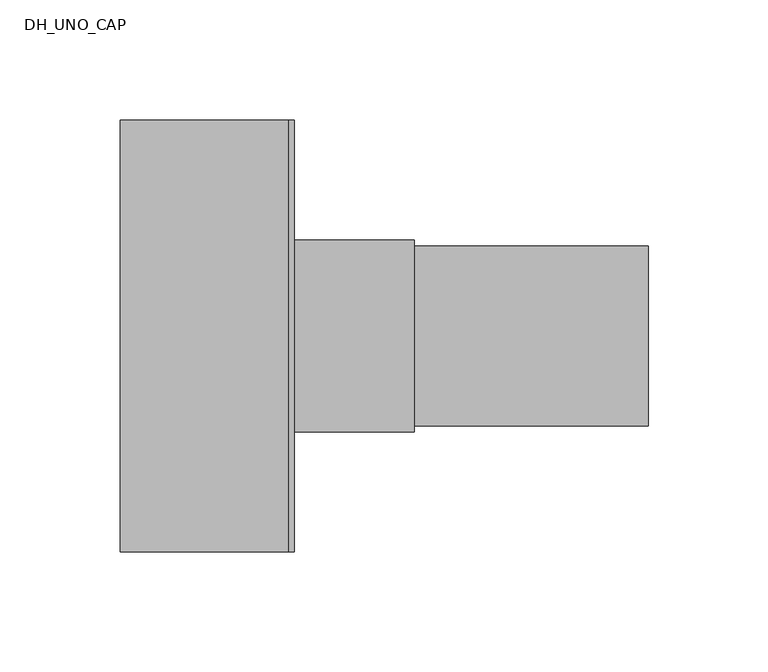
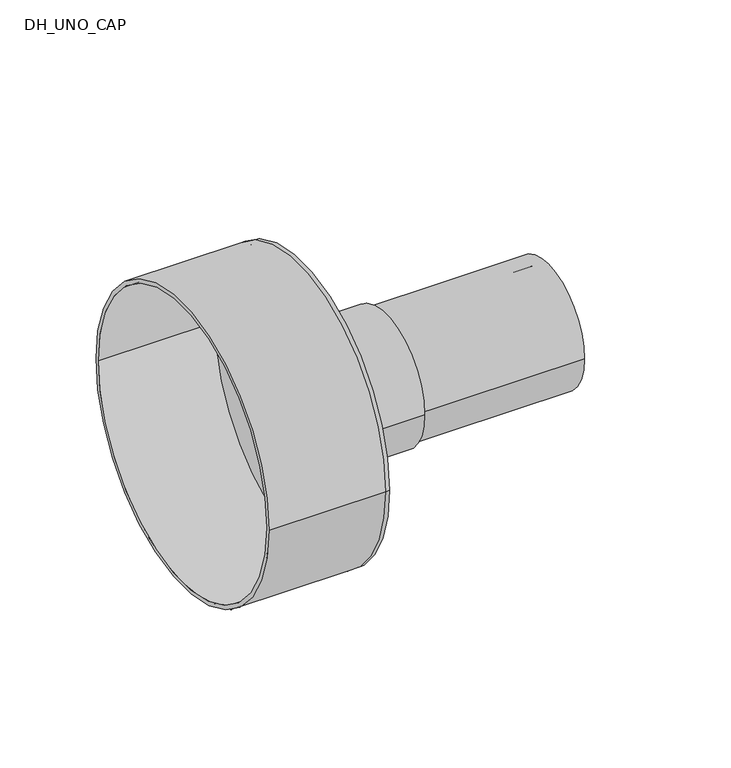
"""IFC4 building model written with IfcOpenShell, lengths in millimetres: pipe fitting geometry, DH_UNO_CAP : RAUVIPEX UNO 11 Heating - Rubber Cap."""

from ifc_helpers import new_model, si_unit, point, frame, origin, origin_2d, place, context, project, spatial, polyline, circle_curve, trimmed, segment, composite_curve, outline, extrude, source, transform, mapped, element, save
from ifc_brep_helpers import plane_surface, cylinder_surface, revolved_surface, advanced_brep


def dh_uno_cap_b64fe8c9(model_context):
    return source(origin(), model_context, "Body", "SolidModel", [
        extrude(outline(composite_curve([segment(trimmed(circle_curve(origin_2d(), 37.5), [point((-37.5, 0.0))], [point((37.5, 0.0))], False, "CARTESIAN"), True, "CONTINUOUS"), segment(trimmed(circle_curve(origin_2d(), 37.5), [point((37.5, 0.0))], [point((-37.5, 0.0))], False, "CARTESIAN"), True, "CONTINUOUS")], self_intersect=False), holes=[composite_curve([segment(trimmed(circle_curve(origin_2d(), 30.7), [point((-30.7, 0.0))], [point((30.7, 0.0))], True, "CARTESIAN"), True, "CONTINUOUS"), segment(trimmed(circle_curve(origin_2d(), 30.7), [point((30.7, 0.0))], [point((-30.7, 0.0))], True, "CARTESIAN"), True, "CONTINUOUS")], self_intersect=False)]), frame((0.0, 0.0, 0.0), z_axis=(1.0, 0.0, 0.0), x_axis=(0.0, 1.0, 0.0)), (0.0, 0.0, 1.0), 150.0),
        advanced_brep(
        [(-70.0, -90.0, 0.0), (-70.0, 90.0, 0.0), (-70.0, -87.5, 0.0), (-70.0, 87.5, 0.0), (0.0, -87.5, 0.0), (0.0, 87.5, 0.0), (0.0, -90.0, 0.0), (0.0, 90.0, 0.0), (0.0, 37.5, 0.0), (0.0, -37.5, 0.0), (2.5, -90.0, 0.0), (2.5, 90.0, 0.0), (2.5, -37.5, 0.0), (2.5, 37.5, 0.0)],
        [
            (0, 1, circle_curve(frame((-70.0, 0.0, 0.0), z_axis=(-1.0, 0.0, 0.0), x_axis=(0.0, 1.0, 0.0)), 90.0)),
            (1, 0, circle_curve(frame((-70.0, 0.0, 0.0), z_axis=(-1.0, 0.0, 0.0), x_axis=(0.0, 1.0, 0.0)), 90.0)),
            (2, 3, circle_curve(frame((-70.0, 0.0, 0.0), z_axis=(1.0, 0.0, 0.0), x_axis=(0.0, 1.0, 0.0)), 87.5)),
            (3, 2, circle_curve(frame((-70.0, 0.0, 0.0), z_axis=(1.0, 0.0, 0.0), x_axis=(0.0, 1.0, 0.0)), 87.5)),
            (2, 4),
            (4, 5, circle_curve(frame((0.0, 0.0, 0.0), z_axis=(1.0, 0.0, 0.0), x_axis=(0.0, 1.0, 0.0)), 87.5)),
            (5, 3),
            (5, 4, circle_curve(frame((0.0, 0.0, 0.0), z_axis=(1.0, 0.0, 0.0), x_axis=(0.0, 1.0, 0.0)), 87.5)),
            (0, 6),
            (6, 7, circle_curve(frame((0.0, 0.0, 0.0), z_axis=(-1.0, 0.0, 0.0), x_axis=(0.0, 1.0, 0.0)), 90.0)),
            (7, 1),
            (7, 6, circle_curve(frame((0.0, 0.0, 0.0), z_axis=(-1.0, 0.0, 0.0), x_axis=(0.0, 1.0, 0.0)), 90.0)),
            (8, 9, circle_curve(frame((0.0, 0.0, 0.0), z_axis=(1.0, 0.0, 0.0), x_axis=(0.0, 1.0, 0.0)), 37.5)),
            (9, 8, circle_curve(frame((0.0, 0.0, 0.0), z_axis=(1.0, 0.0, 0.0), x_axis=(0.0, 1.0, 0.0)), 37.5)),
            (10, 11, circle_curve(frame((2.5, 0.0, 0.0), z_axis=(1.0, 0.0, 0.0), x_axis=(0.0, 1.0, 0.0)), 90.0)),
            (11, 10, circle_curve(frame((2.5, 0.0, 0.0), z_axis=(1.0, 0.0, 0.0), x_axis=(0.0, 1.0, 0.0)), 90.0)),
            (12, 13, circle_curve(frame((2.5, 0.0, 0.0), z_axis=(-1.0, 0.0, 0.0), x_axis=(0.0, 1.0, 0.0)), 37.5)),
            (13, 12, circle_curve(frame((2.5, 0.0, 0.0), z_axis=(-1.0, 0.0, 0.0), x_axis=(0.0, 1.0, 0.0)), 37.5)),
            (11, 7),
            (6, 10),
            (8, 13),
            (12, 9),
        ],
        [
            plane_surface(frame((-70.0, 0.0, 0.0), z_axis=(-1.0, 0.0, 0.0), x_axis=(0.0, 0.0, 1.0))),
            revolved_surface(polyline([(0.0, 87.5, 0.0), (-70.0, 87.5, 0.0)]), (-70.0, 0.0, 0.0), (1.0, 0.0, 0.0)),
            cylinder_surface(frame((-70.0, 0.0, 0.0), z_axis=(-1.0, 0.0, 0.0), x_axis=(0.0, 1.0, 0.0)), 90.0),
            plane_surface(frame((0.0, 0.0, 0.0), z_axis=(-1.0, 0.0, 0.0), x_axis=(0.0, 0.0, 1.0))),
            plane_surface(frame((2.5, 0.0, 0.0), z_axis=(1.0, 0.0, 0.0), x_axis=(0.0, 0.0, 1.0))),
            cylinder_surface(frame((0.0, 0.0, 0.0), z_axis=(-1.0, 0.0, 0.0), x_axis=(0.0, 1.0, 0.0)), 90.0),
            revolved_surface(polyline([(0.0, 37.5, 0.0), (2.5, 37.5, 0.0)]), (0.0, 0.0, 0.0), (-1.0, 0.0, 0.0)),
        ],
        [
            (0, [[1, 2], [3, 4]]),
            (1, [[-3, 5, 6, 7]]),
            (1, [[-4, -7, 8, -5]]),
            (2, [[-1, 9, 10, 11]]),
            (2, [[-2, -11, 12, -9]]),
            (3, [[-6, -8], [13, 14]]),
            (4, [[15, 16], [17, 18]]),
            (5, [[-16, 19, -10, 20]]),
            (5, [[-15, -20, -12, -19]]),
            (6, [[21, -17, 22, -13]]),
            (6, [[-21, -14, -22, -18]]),
        ],
    ),
        extrude(outline(composite_curve([segment(trimmed(circle_curve(origin_2d(), 40.0), [point((-40.0, 0.0))], [point((40.0, 0.0))], False, "CARTESIAN"), True, "CONTINUOUS"), segment(trimmed(circle_curve(origin_2d(), 40.0), [point((40.0, 0.0))], [point((-40.0, 0.0))], False, "CARTESIAN"), True, "CONTINUOUS")], self_intersect=False), holes=[composite_curve([segment(trimmed(circle_curve(origin_2d(), 37.5), [point((-37.5, 0.0))], [point((37.5, 0.0))], True, "CARTESIAN"), True, "CONTINUOUS"), segment(trimmed(circle_curve(origin_2d(), 37.5), [point((37.5, 0.0))], [point((-37.5, 0.0))], True, "CARTESIAN"), True, "CONTINUOUS")], self_intersect=False)]), frame((2.5, 0.0, 0.0), z_axis=(1.0, 0.0, 0.0), x_axis=(0.0, 1.0, 0.0)), (0.0, 0.0, 1.0), 50.0),
    ])


if __name__ == "__main__":
    model = new_model("IFC4")
    model_context = context("Model", 3, world=origin())
    ifc_project = project(units=[si_unit("LENGTHUNIT", "METRE", prefix="MILLI")], contexts=[model_context])
    site = spatial("IfcSite", under=ifc_project)
    building = spatial("IfcBuilding", under=site)
    placement = place(None, origin())
    dh_uno_cap_shape = dh_uno_cap_b64fe8c9(model_context)
    element("IfcPipeFitting", 1, ObjectType="DH_UNO_CAP : RAUVIPEX UNO 11 Heating - Rubber Cap", at=placement, inside=building, context=model_context, shape_type="MappedRepresentation", body=[
        mapped(dh_uno_cap_shape, transform((0.0, 0.0, 0.0), x_axis=(1.0, 0.0, 0.0), y_axis=(0.0, 1.0, 0.0), z_axis=(0.0, 0.0, 1.0))),
    ])
    save(model, "model.ifc")
